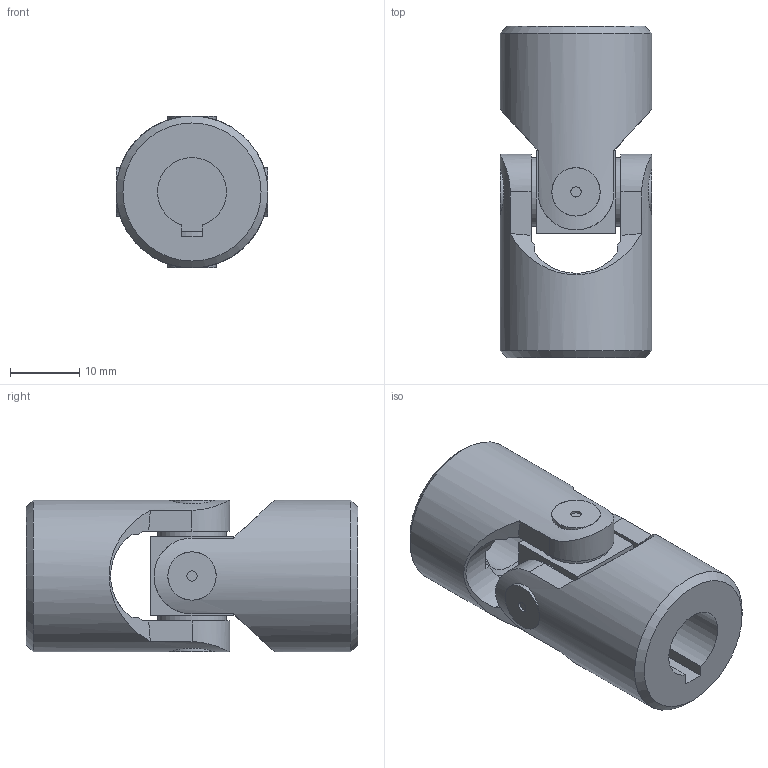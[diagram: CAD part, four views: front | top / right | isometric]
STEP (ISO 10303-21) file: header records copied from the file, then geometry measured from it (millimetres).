
FILE_DESCRIPTION(/* description */ ('EXTENSIBLE TRANSIMISSIONS Series G DIN 808 -2-'),/* implementation_level */ '2;1');
FILE_NAME(/* name */ '\\SRV2016\societa\Stefano\Disegni 3D\Dis. Clienti\0000Catalogo 3D\01Singoli G-GB\SG0S102C.stp',/* time_stamp */ '2021-11-08T14:23:48+01:00',/* author */ ('acquisti'),/* organization */ ('MARIOFERRI'),/* preprocessor_version */ 'ST-DEVELOPER v15.6',/* originating_system */ 'Autodesk Inventor 2015',/* authorisation */ '');
FILE_SCHEMA (('AUTOMOTIVE_DESIGN { 1 0 10303 214 3 1 1 }'));
Length unit declared in the file: millimetre
Products named in the file (3): 03G SFE; 03G MOC; Assieme1
Assembly tree (3 placements, depth 2):
  Assieme1
    03G SFE
    03G MOC  x2
Bounding box: 22 x 48 x 22 mm (x, y, z)
Volume: 12412.3 mm3; surface area: 6465.3 mm2
Topology: 3 solids, 3 shells, 82 faces, 194 edges, 128 vertices
Faces by surface type: plane 42, cylinder 26, cone 12, torus 2
Full cylindrical faces by diameter (mm): 1.5 x4, 10 x4, 22 x2
Entity records: 1565 total; most frequent: CARTESIAN_POINT 486, DIRECTION 211, ORIENTED_EDGE 198, EDGE_CURVE 99, AXIS2_PLACEMENT_3D 89, VERTEX_POINT 71, EDGE_LOOP 66, FACE_OUTER_BOUND 48
